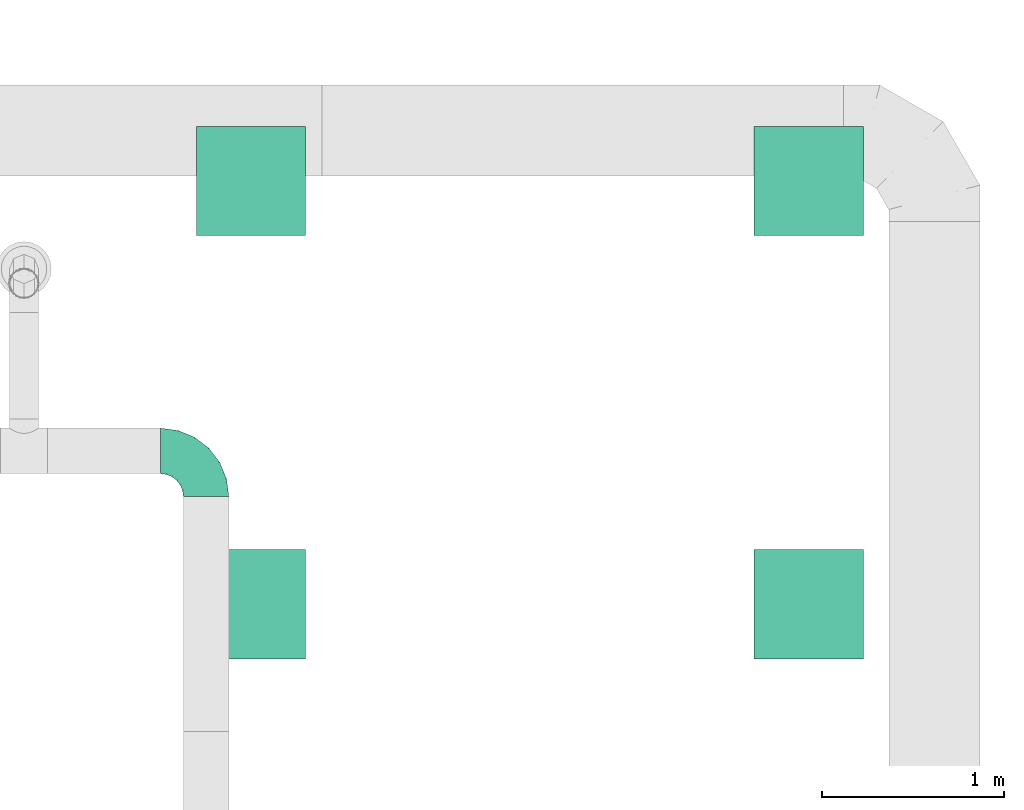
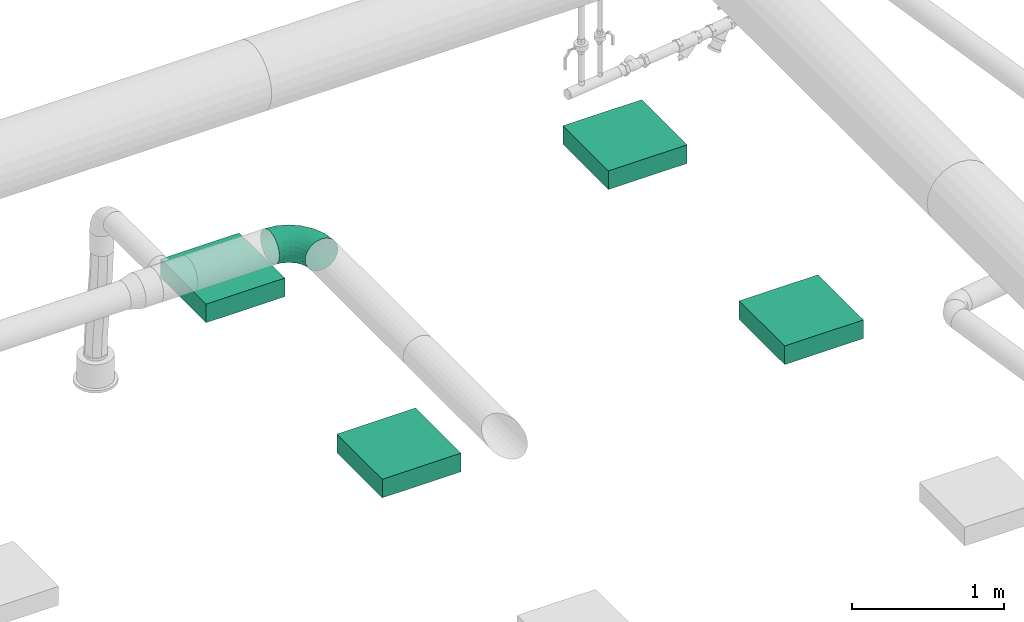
# One storey, part 185 of 374: 4 distribution elements, 1 flow fitting.
"""IFC2X3 building model written with IfcOpenShell, lengths in metres."""

from ifc_helpers import new_model, si_unit, direction, frame, frame_2d, origin, place, context, subcontext, project, spatial, rectangle, extrude, open_shell, surface_model, source, transform, mapped, element, save


model = new_model("IFC2X3")

# Units and contexts
model_context = context("Model", 3, precision=1e-05, world=origin(), true_north=direction((-0.4480736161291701, 0.8939966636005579)))
body_context = subcontext(model_context, "Body", "Model", "MODEL_VIEW")
ifc_project = project(units=[si_unit("LENGTHUNIT", "METRE"), si_unit("AREAUNIT", "SQUARE_METRE"), si_unit("VOLUMEUNIT", "CUBIC_METRE"), si_unit("PLANEANGLEUNIT", "RADIAN"), si_unit("THERMODYNAMICTEMPERATUREUNIT", "KELVIN"), si_unit("MASSUNIT", "GRAM", prefix="KILO"), si_unit("TIMEUNIT", "SECOND")], contexts=[model_context])

# Site, building, storey
site_placement = place(None, origin())
site = spatial("IfcSite", under=ifc_project, at=site_placement, Name="Site 1", CompositionType="ELEMENT")
building_placement = place(site_placement, origin())
building = spatial("IfcBuilding", under=site, at=building_placement, Name="Undefined", CompositionType="ELEMENT")
storey_placement = place(building_placement, origin())
storey = spatial("IfcBuildingStorey", under=building, at=storey_placement, Name="Rez de chauss\x8ee", CompositionType="ELEMENT", Elevation=0.0)

# Flow fitting
shared_shape = source(origin(), body_context, "Body", "SurfaceModel", [
    surface_model("IfcFaceBasedSurfaceModel", [(0.09789464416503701, 0.0, 0.0), (0.0973386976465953, 0.03262681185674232, 7.105427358e-15), (0.0005559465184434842, 0.03262681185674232, -7.105427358e-15), (0.0, 0.0, 0.0), (-0.09292901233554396, 0.03586888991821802, -0.024838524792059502), (-0.0945589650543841, 0.0032793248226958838, -0.025123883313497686), (-0.1767453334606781, 0.042132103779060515, -0.07282286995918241), (-0.17933821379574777, 0.009614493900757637, -0.07365949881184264), (-0.24518107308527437, 0.05098962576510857, -0.14068298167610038), (-0.24856018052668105, 0.018573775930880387, -0.14229922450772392), (-0.29357244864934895, 0.06183783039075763, -0.22379430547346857), (-0.2975075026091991, 0.029546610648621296, -0.22636537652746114), (-0.31862166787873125, 0.0739374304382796, -0.31649294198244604), (-0.3228445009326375, 0.0417852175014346, -0.3201289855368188), (0.09570874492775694, 0.06412326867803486, -0.008374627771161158), (0.00218589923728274, 0.06412326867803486, -0.008374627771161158), (-0.08815023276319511, 0.06725614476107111, -0.032376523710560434), (-0.16914339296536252, 0.07330839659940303, -0.07874462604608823), (-0.23527403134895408, 0.08186757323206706, -0.14431902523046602), (-0.28203545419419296, 0.09235038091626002, -0.2246309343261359), (-0.3062409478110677, 0.10404243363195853, -0.314207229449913), (0.09311586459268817, 0.09234293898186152, -0.024553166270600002), (0.0047787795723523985, 0.0923429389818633, -0.024553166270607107), (-0.08054829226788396, 0.09530209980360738, -0.04722417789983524), (-0.15705045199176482, 0.10101875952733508, -0.09102120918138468), (-0.2195142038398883, 0.10910333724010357, -0.15295956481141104), (-0.26368274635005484, 0.1190048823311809, -0.22881824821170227), (-0.28654606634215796, 0.1300486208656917, -0.31342761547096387), (0.08973675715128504, 0.11536269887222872, -0.04743307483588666), (0.008157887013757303, 0.11536269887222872, -0.04743307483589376), (-0.07064125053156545, 0.1180954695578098, -0.06836964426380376), (-0.14129062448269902, 0.12337477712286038, -0.10881599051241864), (-0.19897559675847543, 0.13084084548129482, -0.16601576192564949), (-0.23976503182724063, 0.139984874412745, -0.23607088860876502), (-0.26087919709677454, 0.15018371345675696, -0.31420722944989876), (0.0858017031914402, 0.1316137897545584, -0.07545512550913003), (0.012092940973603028, 0.13161378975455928, -0.07545512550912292), (-0.059104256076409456, 0.13408292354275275, -0.09437189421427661), (-0.1229379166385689, 0.1388529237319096, -0.1309162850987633), (-0.17505788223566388, 0.14559872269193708, -0.18259785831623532), (-0.21191226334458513, 0.15386060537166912, -0.24589460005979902), (-0.2309894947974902, 0.16307553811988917, -0.31649294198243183), (0.08157887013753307, 0.13998872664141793, -0.10670966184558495), (0.01631577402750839, 0.13998872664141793, -0.10670966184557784), (-0.04672353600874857, 0.14217494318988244, -0.12345891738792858), (-0.10324303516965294, 0.1463983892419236, -0.15581599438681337), (-0.1493910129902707, 0.15237124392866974, -0.2015758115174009), (-0.18202256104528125, 0.15968646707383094, -0.25761991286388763), (-0.19891389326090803, 0.1678455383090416, -0.3201289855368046), (0.07735603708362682, 0.139916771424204, -0.13906673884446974), (0.02053860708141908, 0.1399167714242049, -0.13906673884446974), (-0.03434281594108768, 0.1418200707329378, -0.153648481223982), (-0.08354815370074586, 0.14549696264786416, -0.18181824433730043), (-0.1237241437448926, 0.15069687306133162, -0.22165630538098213), (-0.15213285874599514, 0.15706543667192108, -0.27044776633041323), (-0.1668382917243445, 0.16416864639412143, -0.324867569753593), (0.07342098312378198, 0.13140282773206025, -0.17032127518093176), (0.02447366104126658, 0.13140282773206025, -0.17032127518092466), (-0.02280582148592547, 0.1330424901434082, -0.1828832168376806), (-0.06519544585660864, 0.13621007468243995, -0.20715102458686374), (-0.09980642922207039, 0.14068971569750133, -0.24147088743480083), (-0.12428009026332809, 0.14617613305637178, -0.2835039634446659), (-0.13694858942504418, 0.15229543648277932, -0.3303857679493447), (0.07004187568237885, 0.11502710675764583, -0.19834332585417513), (0.02785276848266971, 0.1150271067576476, -0.19834332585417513), (-0.01289877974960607, 0.11644037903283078, -0.20917082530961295), (-0.04943561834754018, 0.11917061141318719, -0.23008794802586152), (-0.07926782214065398, 0.12303174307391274, -0.259669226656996), (-0.10036237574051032, 0.12776064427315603, -0.29589874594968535), (-0.11128172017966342, 0.13303504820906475, -0.3363075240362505), (0.06744899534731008, 0.09190558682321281, -0.2212232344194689), (0.030445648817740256, 0.09190558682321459, -0.221223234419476), (-0.0052968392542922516, 0.09314514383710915, -0.23071984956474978), (-0.03734267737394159, 0.09553978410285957, -0.24906590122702), (-0.06350799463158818, 0.0989263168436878, -0.2750111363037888), (-0.08200966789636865, 0.10307395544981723, -0.30678742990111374), (-0.09158683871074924, 0.10770004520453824, -0.34222928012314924), (0.06581904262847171, 0.063613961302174, -0.23740177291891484), (0.032075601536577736, 0.063613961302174, -0.23740177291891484), (-0.0005180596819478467, 0.06474431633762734, -0.2460617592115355), (-0.029740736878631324, 0.06692799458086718, -0.2627915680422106), (-0.053600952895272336, 0.07001618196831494, -0.28645109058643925), (-0.07047267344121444, 0.07379842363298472, -0.31542796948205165), (-0.07920611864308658, 0.07801696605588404, -0.34774747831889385), (0.06526309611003, 0.03208025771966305, -0.2457764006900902), (0.03263154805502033, 0.03208025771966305, -0.2457764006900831), (0.0011118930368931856, 0.0331733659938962, -0.2541510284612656), (-0.02714785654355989, 0.035285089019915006, -0.2703295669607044), (-0.05022184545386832, 0.03827151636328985, -0.2932094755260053), (-0.06653761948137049, 0.04192912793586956, -0.32123152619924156), (-0.07498328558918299, 0.046008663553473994, -0.3524860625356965), (0.06581904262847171, -0.0005465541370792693, -0.2457764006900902), (0.03207560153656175, -0.0005465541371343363, -0.2457764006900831), (-0.0005180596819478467, 0.000583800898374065, -0.25443638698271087), (-0.029740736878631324, 0.0027674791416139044, -0.27116619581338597), (-0.053600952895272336, 0.005855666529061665, -0.2948257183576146), (-0.07047267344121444, 0.009637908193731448, -0.323802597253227), (-0.07920611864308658, 0.013856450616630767, -0.3561221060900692), (0.06744899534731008, -0.0320430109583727, -0.23740177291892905), (0.030445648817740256, -0.03204301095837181, -0.23740177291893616), (-0.0052968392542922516, -0.030803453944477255, -0.24689838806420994), (-0.03734267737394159, -0.02840881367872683, -0.26524443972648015), (-0.06350799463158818, -0.0250222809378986, -0.291189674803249), (-0.08200966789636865, -0.020874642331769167, -0.3229659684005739), (-0.09158683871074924, -0.01624855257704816, -0.3584078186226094), (0.07004187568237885, -0.060262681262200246, -0.2212232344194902), (0.02785276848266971, -0.06026268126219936, -0.2212232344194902), (-0.01289877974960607, -0.058849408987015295, -0.23205073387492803), (-0.04943561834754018, -0.05611917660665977, -0.2529678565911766), (-0.07926782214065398, -0.05225804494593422, -0.28254913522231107), (-0.10036237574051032, -0.04752914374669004, -0.3187786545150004), (-0.11128172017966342, -0.04225473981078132, -0.3591874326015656), (0.07342098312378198, -0.08328244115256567, -0.19834332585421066), (0.02447366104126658, -0.08328244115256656, -0.19834332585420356), (-0.02280582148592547, -0.08164277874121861, -0.2109052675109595), (-0.06519544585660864, -0.07847519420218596, -0.23517307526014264), (-0.09980642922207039, -0.07399555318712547, -0.2694929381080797), (-0.12428009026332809, -0.06850913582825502, -0.3115260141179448), (-0.13694858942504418, -0.06238983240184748, -0.3584078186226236), (0.07735603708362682, -0.09953353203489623, -0.17032127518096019), (0.02053860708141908, -0.09953353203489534, -0.17032127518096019), (-0.03434281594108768, -0.09763023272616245, -0.18490301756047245), (-0.08354815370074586, -0.09395334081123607, -0.21307278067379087), (-0.1237241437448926, -0.08875343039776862, -0.2529108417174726), (-0.15213285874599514, -0.08238486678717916, -0.3017023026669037), (-0.1668382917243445, -0.0752816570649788, -0.35612210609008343), (0.08157887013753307, -0.10790846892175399, -0.13906673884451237), (0.01631577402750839, -0.10790846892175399, -0.13906673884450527), (-0.04672353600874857, -0.10572225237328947, -0.155815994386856), (-0.10324303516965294, -0.1014988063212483, -0.1881730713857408), (-0.1493910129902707, -0.09552595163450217, -0.23393288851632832), (-0.18202256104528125, -0.08821072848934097, -0.28997698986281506), (-0.19891389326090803, -0.08005165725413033, -0.352486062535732), (0.0858017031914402, -0.10783651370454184, -0.10670966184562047), (0.012092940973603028, -0.10783651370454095, -0.10670966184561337), (-0.059104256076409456, -0.10536737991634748, -0.12562643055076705), (-0.1229379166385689, -0.10059737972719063, -0.16217082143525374), (-0.17505788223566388, -0.09385158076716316, -0.21385239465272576), (-0.21191226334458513, -0.08558969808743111, -0.27714913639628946), (-0.2309894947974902, -0.07637476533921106, -0.3477474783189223), (0.08973675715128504, -0.0993225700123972, -0.07545512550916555), (0.008157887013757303, -0.0993225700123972, -0.07545512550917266), (-0.07064125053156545, -0.096589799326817, -0.09639169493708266), (-0.14129062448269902, -0.09131049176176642, -0.13683804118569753), (-0.19897559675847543, -0.08384442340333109, -0.19403781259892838), (-0.23976503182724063, -0.07470039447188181, -0.2640929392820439), (-0.26087919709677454, -0.06450155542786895, -0.34222928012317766), (0.09311586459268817, -0.08294684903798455, -0.04743307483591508), (0.0047787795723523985, -0.08294684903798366, -0.047433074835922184), (-0.08054829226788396, -0.07998768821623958, -0.07010408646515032), (-0.15705045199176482, -0.074271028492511, -0.11390111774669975), (-0.2195142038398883, -0.0661864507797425, -0.17583947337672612), (-0.26368274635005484, -0.05628490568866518, -0.25169815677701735), (-0.28654606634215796, -0.04524116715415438, -0.33630752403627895), (0.09570874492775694, -0.05982532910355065, -0.02455316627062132), (0.00218589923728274, -0.05982532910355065, -0.02455316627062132), (-0.08815023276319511, -0.0566924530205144, -0.048555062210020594), (-0.16914339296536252, -0.05064020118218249, -0.09492316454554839), (-0.23527403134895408, -0.04208102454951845, -0.16049756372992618), (-0.28203545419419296, -0.03159821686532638, -0.24080947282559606), (-0.3062409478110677, -0.01990616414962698, -0.33038576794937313), (0.0973386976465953, -0.03153370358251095, -0.008374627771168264), (0.0005559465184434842, -0.03153370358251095, -0.008374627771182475), (-0.09292901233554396, -0.028291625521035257, -0.03321315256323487), (-0.1767453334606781, -0.02202841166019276, -0.08119749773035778), (-0.24518107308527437, -0.013170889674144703, -0.14905760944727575), (-0.29357244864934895, -0.002322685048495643, -0.23216893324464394), (-0.31862166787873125, 0.009776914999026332, -0.3248675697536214)], [open_shell([[[0, 1, 2, 3]], [[3, 2, 4, 5]], [[5, 4, 6, 7]], [[7, 6, 8, 9]], [[9, 8, 10, 11]], [[11, 10, 12, 13]], [[1, 14, 15, 2]], [[2, 15, 16, 4]], [[4, 16, 17, 6]], [[6, 17, 18, 8]], [[8, 18, 19, 10]], [[10, 19, 20, 12]], [[14, 21, 22, 15]], [[15, 22, 23, 16]], [[16, 23, 24, 17]], [[17, 24, 25, 18]], [[18, 25, 26, 19]], [[19, 26, 27, 20]], [[21, 28, 29, 22]], [[22, 29, 30, 23]], [[23, 30, 31, 24]], [[24, 31, 32, 25]], [[25, 32, 33, 26]], [[26, 33, 34, 27]], [[28, 35, 36, 29]], [[29, 36, 37, 30]], [[30, 37, 38, 31]], [[31, 38, 39, 32]], [[32, 39, 40, 33]], [[33, 40, 41, 34]], [[35, 42, 43, 36]], [[36, 43, 44, 37]], [[37, 44, 45, 38]], [[38, 45, 46, 39]], [[39, 46, 47, 40]], [[40, 47, 48, 41]], [[42, 49, 50, 43]], [[43, 50, 51, 44]], [[44, 51, 52, 45]], [[45, 52, 53, 46]], [[46, 53, 54, 47]], [[47, 54, 55, 48]], [[49, 56, 57, 50]], [[50, 57, 58, 51]], [[51, 58, 59, 52]], [[52, 59, 60, 53]], [[53, 60, 61, 54]], [[54, 61, 62, 55]], [[56, 63, 64, 57]], [[57, 64, 65, 58]], [[58, 65, 66, 59]], [[59, 66, 67, 60]], [[60, 67, 68, 61]], [[61, 68, 69, 62]], [[63, 70, 71, 64]], [[64, 71, 72, 65]], [[65, 72, 73, 66]], [[66, 73, 74, 67]], [[67, 74, 75, 68]], [[68, 75, 76, 69]], [[70, 77, 78, 71]], [[71, 78, 79, 72]], [[72, 79, 80, 73]], [[73, 80, 81, 74]], [[74, 81, 82, 75]], [[75, 82, 83, 76]], [[77, 84, 85, 78]], [[78, 85, 86, 79]], [[79, 86, 87, 80]], [[80, 87, 88, 81]], [[81, 88, 89, 82]], [[82, 89, 90, 83]], [[84, 91, 92, 85]], [[85, 92, 93, 86]], [[86, 93, 94, 87]], [[87, 94, 95, 88]], [[88, 95, 96, 89]], [[89, 96, 97, 90]], [[91, 98, 99, 92]], [[92, 99, 100, 93]], [[93, 100, 101, 94]], [[94, 101, 102, 95]], [[95, 102, 103, 96]], [[96, 103, 104, 97]], [[98, 105, 106, 99]], [[99, 106, 107, 100]], [[100, 107, 108, 101]], [[101, 108, 109, 102]], [[102, 109, 110, 103]], [[103, 110, 111, 104]], [[105, 112, 113, 106]], [[106, 113, 114, 107]], [[107, 114, 115, 108]], [[108, 115, 116, 109]], [[109, 116, 117, 110]], [[110, 117, 118, 111]], [[112, 119, 120, 113]], [[113, 120, 121, 114]], [[114, 121, 122, 115]], [[115, 122, 123, 116]], [[116, 123, 124, 117]], [[117, 124, 125, 118]], [[119, 126, 127, 120]], [[120, 127, 128, 121]], [[121, 128, 129, 122]], [[122, 129, 130, 123]], [[123, 130, 131, 124]], [[124, 131, 132, 125]], [[126, 133, 134, 127]], [[127, 134, 135, 128]], [[128, 135, 136, 129]], [[129, 136, 137, 130]], [[130, 137, 138, 131]], [[131, 138, 139, 132]], [[133, 140, 141, 134]], [[134, 141, 142, 135]], [[135, 142, 143, 136]], [[136, 143, 144, 137]], [[137, 144, 145, 138]], [[138, 145, 146, 139]], [[140, 147, 148, 141]], [[141, 148, 149, 142]], [[142, 149, 150, 143]], [[143, 150, 151, 144]], [[144, 151, 152, 145]], [[145, 152, 153, 146]], [[147, 154, 155, 148]], [[148, 155, 156, 149]], [[149, 156, 157, 150]], [[150, 157, 158, 151]], [[151, 158, 159, 152]], [[152, 159, 160, 153]], [[154, 161, 162, 155]], [[155, 162, 163, 156]], [[156, 163, 164, 157]], [[157, 164, 165, 158]], [[158, 165, 166, 159]], [[159, 166, 167, 160]], [[161, 0, 3, 162]], [[162, 3, 5, 163]], [[163, 5, 7, 164]], [[164, 7, 9, 165]], [[165, 9, 11, 166]], [[166, 11, 13, 167]]])]),
])
flow_fitting_placement = place(storey_placement, origin())
element("IfcFlowFitting", 1, at=flow_fitting_placement, inside=storey, Name="Coude", ObjectType="Coude", context=body_context, shape_type="MappedRepresentation", body=[
    mapped(shared_shape, transform((61.40170971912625, 15.802055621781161, 3.8000000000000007), x_axis=(0.13052619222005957, -0.9914448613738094, 0.0), y_axis=(-0.12832103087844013, -0.016893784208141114, -0.9915887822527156), z_axis=(0.983105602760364, 0.12942830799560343, -0.1294283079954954))),
])

# Distribution elements
distribution_element_1_placement = place(storey_placement, origin())
element("IfcDistributionElement", 2, at=distribution_element_1_placement, inside=storey, Name="Decken-Rechteckleuchte mit Rahmen AP", ObjectType="Decken-Rechteckleuchte mit Rahmen AP", context=body_context, shape_type="SweptSolid", body=[
    extrude(rectangle(XDim=0.6000000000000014, YDim=0.6000000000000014, at=frame_2d((3.552713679e-15, 0.0), x_axis=(0.0, 1.0))), frame((64.60082980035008, 15.1125, 2.5500000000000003), z_axis=(0.0, 0.0, -1.0), x_axis=(1.0, 0.0, 0.0)), (0.0, 0.0, 1.0), 0.15),
])
distribution_element_2_placement = place(storey_placement, origin())
element("IfcDistributionElement", 3, at=distribution_element_2_placement, inside=storey, Name="Decken-Rechteckleuchte mit Rahmen AP", ObjectType="Decken-Rechteckleuchte mit Rahmen AP", context=body_context, shape_type="SweptSolid", body=[
    extrude(rectangle(XDim=0.6000000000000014, YDim=0.6000000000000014, at=frame_2d((3.552713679e-15, 0.0), x_axis=(0.0, 1.0))), frame((61.53609788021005, 17.437499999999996, 2.5500000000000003), z_axis=(0.0, 0.0, -1.0), x_axis=(1.0, 0.0, 0.0)), (0.0, 0.0, 1.0), 0.15),
])
distribution_element_3_placement = place(storey_placement, origin())
element("IfcDistributionElement", 4, at=distribution_element_3_placement, inside=storey, Name="Decken-Rechteckleuchte mit Rahmen AP", ObjectType="Decken-Rechteckleuchte mit Rahmen AP", context=body_context, shape_type="SweptSolid", body=[
    extrude(rectangle(XDim=0.6000000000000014, YDim=0.6000000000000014, at=frame_2d((3.552713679e-15, 0.0), x_axis=(0.0, 1.0))), frame((64.60082980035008, 17.437499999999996, 2.5500000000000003), z_axis=(0.0, 0.0, -1.0), x_axis=(1.0, 0.0, 0.0)), (0.0, 0.0, 1.0), 0.15),
])
distribution_element_4_placement = place(storey_placement, origin())
element("IfcDistributionElement", 5, at=distribution_element_4_placement, inside=storey, Name="Decken-Rechteckleuchte mit Rahmen AP", ObjectType="Decken-Rechteckleuchte mit Rahmen AP", context=body_context, shape_type="SweptSolid", body=[
    extrude(rectangle(XDim=0.6000000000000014, YDim=0.6000000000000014, at=frame_2d((3.552713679e-15, 0.0), x_axis=(0.0, 1.0))), frame((61.53609788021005, 15.1125, 2.5500000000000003), z_axis=(0.0, 0.0, -1.0), x_axis=(1.0, 0.0, 0.0)), (0.0, 0.0, 1.0), 0.15),
])

save(model, "model.ifc")
